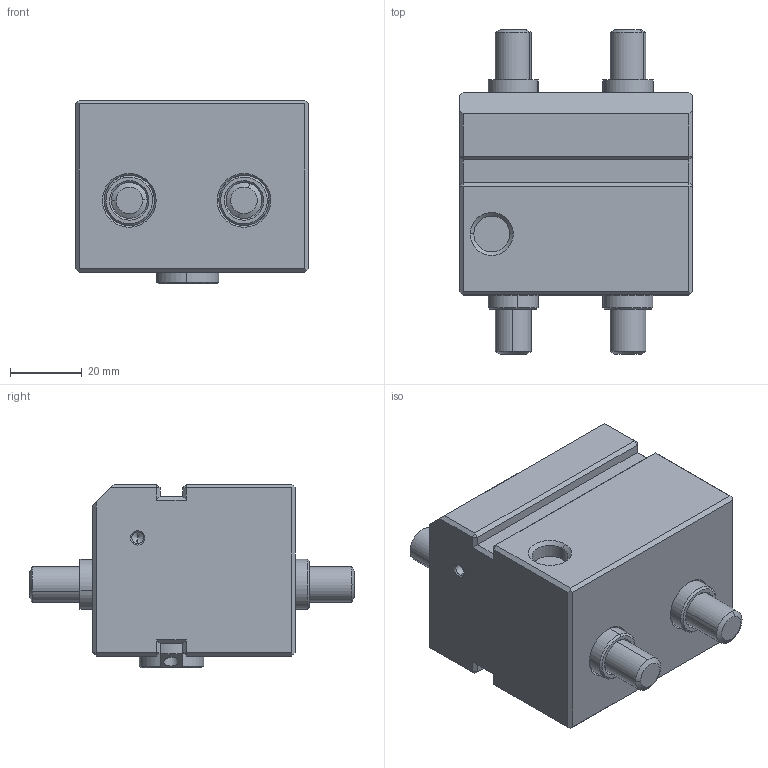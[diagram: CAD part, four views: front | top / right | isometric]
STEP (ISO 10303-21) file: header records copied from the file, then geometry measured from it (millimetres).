
FILE_DESCRIPTION (( 'STEP AP203' ), '1' );
FILE_NAME ('FK-ZM32.STEP', '2026-07-23T08:48:28', ( 'USER-' ), ( 'Microsoft' ), 'SwSTEP 2.0', 'SolidWorks 2018', '' );
FILE_SCHEMA (( 'CONFIG_CONTROL_DESIGN' ));
Length unit declared in the file: millimetre
Products named in the file (8): FK-ZM32; 30x14-R3; 内六角圆柱头螺钉[GBT70_1-2008][M10×50]; ﾏ擎ﾗ14｡ﾁ10｡ﾁ8; FK-ZM32-02 坶踡种-1; 内六角沉头螺钉[GBT70_3-2008][M10×30×22]_M10×30×22; FK-ZM32-01 假蚾價釱-1; FK-ZM32-03 巠饜种-1
Assembly tree (11 placements, depth 2):
  FK-ZM32
    FK-ZM32-01 假蚾價釱-1
    FK-ZM32-03 巠饜种-1  x2
    FK-ZM32-02 坶踡种-1
    30x14-R3
    内六角沉头螺钉[GBT70_3-2008][M10×30×22]_M10×30×22  x2
    ﾏ擎ﾗ14｡ﾁ10｡ﾁ8  x2
    内六角圆柱头螺钉[GBT70_1-2008][M10×50]  x2
Bounding box: 65 x 90.5 x 51.3 mm (x, y, z)
Volume: 173211.9 mm3; surface area: 47867.5 mm2
Topology: 11 solids, 11 shells, 723 faces, 1855 edges, 1193 vertices
Faces by surface type: plane 365, bspline 155, cylinder 126, cone 65, torus 12
Entity records: 26021 total; most frequent: CARTESIAN_POINT 9946, ORIENTED_EDGE 3400, DIRECTION 2647, EDGE_CURVE 1700, LINE 1105, VECTOR 1105, VERTEX_POINT 1104, AXIS2_PLACEMENT_3D 771
